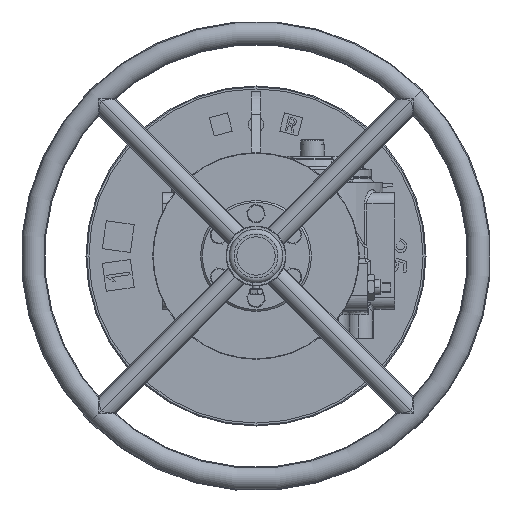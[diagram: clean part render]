
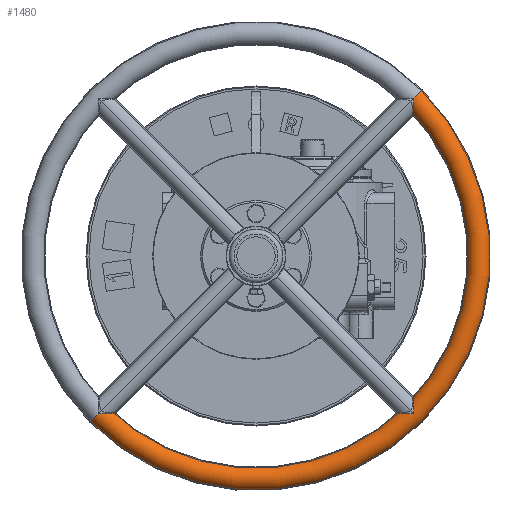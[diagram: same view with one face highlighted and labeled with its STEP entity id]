
A CAD part, left-side view. The second image highlights one B-rep face of the part: STEP entity #1480.
In plain terms, the highlighted toroidal (fillet/blend) face has major radius 237.5 mm and minor radius 12.5 mm.
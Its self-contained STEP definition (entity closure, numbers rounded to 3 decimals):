
#1480 = ADVANCED_FACE ( 'NONE', ( #78849 ), #29244, .T. ) ;
#3375 = AXIS2_PLACEMENT_3D ( 'NONE', #75479, #83819, #3809 ) ;
#3809 = DIRECTION ( 'NONE',  ( 0., 0., -1. ) ) ;
#4610 = ORIENTED_EDGE ( 'NONE', *, *, #49756, .T. ) ;
#4682 = VERTEX_POINT ( 'NONE', #50533 ) ;
#7433 = VERTEX_POINT ( 'NONE', #61531 ) ;
#9142 = EDGE_LOOP ( 'NONE', ( #21893, #25253, #15139, #4610 ) ) ;
#15139 = ORIENTED_EDGE ( 'NONE', *, *, #39203, .T. ) ;
#19074 = CARTESIAN_POINT ( 'NONE',  ( -920.7, 22.5, 57.5 ) ) ;
#21893 = ORIENTED_EDGE ( 'NONE', *, *, #40043, .F. ) ;
#23914 = DIRECTION ( 'NONE',  ( 0., -0.707, 0.707 ) ) ;
#25253 = ORIENTED_EDGE ( 'NONE', *, *, #47248, .F. ) ;
#26661 = AXIS2_PLACEMENT_3D ( 'NONE', #19074, #51474, #90711 ) ;
#29244 = TOROIDAL_SURFACE ( 'NONE', #42574, 237.5, 12.5 ) ;
#30736 = DIRECTION ( 'NONE',  ( 1., 0., 0. ) ) ;
#31684 = CIRCLE ( 'NONE', #26661, 225. ) ;
#31754 = CIRCLE ( 'NONE', #3375, 250. ) ;
#31787 = DIRECTION ( 'NONE',  ( 0., 0.707, 0.707 ) ) ;
#32547 = CIRCLE ( 'NONE', #40920, 12.5 ) ;
#33073 = DIRECTION ( 'NONE',  ( 0., -0.707, -0.707 ) ) ;
#36566 = AXIS2_PLACEMENT_3D ( 'NONE', #103419, #31787, #23914 ) ;
#39203 = EDGE_CURVE ( 'NONE', #81913, #7433, #31684, .T. ) ;
#40043 = EDGE_CURVE ( 'NONE', #48450, #4682, #31754, .T. ) ;
#40920 = AXIS2_PLACEMENT_3D ( 'NONE', #56638, #33073, #96365 ) ;
#42574 = AXIS2_PLACEMENT_3D ( 'NONE', #87182, #30736, #54797 ) ;
#47248 = EDGE_CURVE ( 'NONE', #81913, #48450, #100041, .T. ) ;
#48450 = VERTEX_POINT ( 'NONE', #91433 ) ;
#49756 = EDGE_CURVE ( 'NONE', #7433, #4682, #32547, .T. ) ;
#50533 = CARTESIAN_POINT ( 'NONE',  ( -920.7, 199.277, -119.277 ) ) ;
#51474 = DIRECTION ( 'NONE',  ( 1., 0., 0. ) ) ;
#54797 = DIRECTION ( 'NONE',  ( 0., -0.707, 0.707 ) ) ;
#56638 = CARTESIAN_POINT ( 'NONE',  ( -920.7, 190.438, -110.438 ) ) ;
#61531 = CARTESIAN_POINT ( 'NONE',  ( -920.7, 181.599, -101.599 ) ) ;
#75479 = CARTESIAN_POINT ( 'NONE',  ( -920.7, 22.5, 57.5 ) ) ;
#77368 = CARTESIAN_POINT ( 'NONE',  ( -920.7, -136.599, 216.599 ) ) ;
#78849 = FACE_OUTER_BOUND ( 'NONE', #9142, .T. ) ;
#81913 = VERTEX_POINT ( 'NONE', #77368 ) ;
#83819 = DIRECTION ( 'NONE',  ( 1., 0., 0. ) ) ;
#87182 = CARTESIAN_POINT ( 'NONE',  ( -920.7, 22.5, 57.5 ) ) ;
#90711 = DIRECTION ( 'NONE',  ( 0., 0., -1. ) ) ;
#91433 = CARTESIAN_POINT ( 'NONE',  ( -920.7, -154.277, 234.277 ) ) ;
#96365 = DIRECTION ( 'NONE',  ( 0., 0.707, -0.707 ) ) ;
#100041 = CIRCLE ( 'NONE', #36566, 12.5 ) ;
#103419 = CARTESIAN_POINT ( 'NONE',  ( -920.7, -145.438, 225.438 ) ) ;
